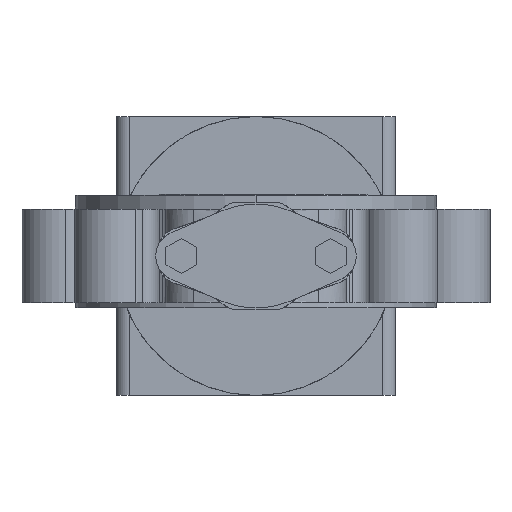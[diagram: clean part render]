
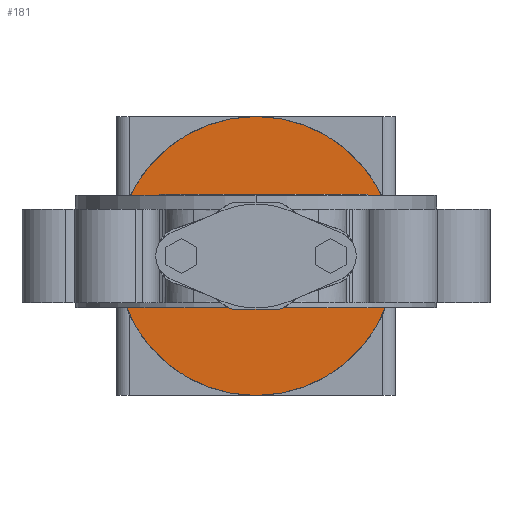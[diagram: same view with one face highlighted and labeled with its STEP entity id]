
A CAD part, front view. The second image highlights one B-rep face of the part: STEP entity #181.
In plain terms, the highlighted planar face has unit normal (0, -1, 0).
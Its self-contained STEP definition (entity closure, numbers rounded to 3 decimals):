
#181 = ADVANCED_FACE( '', ( #622, #623 ), #624, .T. );
#622 = FACE_OUTER_BOUND( '', #1319, .T. );
#623 = FACE_BOUND( '', #1320, .T. );
#624 = PLANE( '', #1321 );
#1319 = EDGE_LOOP( '', ( #2598, #2599 ) );
#1320 = EDGE_LOOP( '', ( #2600, #2601, #2602, #2603 ) );
#1321 = AXIS2_PLACEMENT_3D( '', #2604, #2605, #2606 );
#2598 = ORIENTED_EDGE( '', *, *, #4642, .F. );
#2599 = ORIENTED_EDGE( '', *, *, #4814, .F. );
#2600 = ORIENTED_EDGE( '', *, *, #4815, .T. );
#2601 = ORIENTED_EDGE( '', *, *, #4816, .T. );
#2602 = ORIENTED_EDGE( '', *, *, #4817, .T. );
#2603 = ORIENTED_EDGE( '', *, *, #4818, .T. );
#2604 = CARTESIAN_POINT( '', ( 65.5, 250., 0. ) );
#2605 = DIRECTION( '', ( 0., -1., 0. ) );
#2606 = DIRECTION( '', ( -1., 0., 0. ) );
#4642 = EDGE_CURVE( '', #5674, #5677, #5678, .T. );
#4814 = EDGE_CURVE( '', #5677, #5674, #5956, .T. );
#4815 = EDGE_CURVE( '', #5957, #5958, #5959, .T. );
#4816 = EDGE_CURVE( '', #5958, #5960, #5961, .T. );
#4817 = EDGE_CURVE( '', #5960, #5962, #5963, .T. );
#4818 = EDGE_CURVE( '', #5962, #5957, #5964, .T. );
#5674 = VERTEX_POINT( '', #7533 );
#5677 = VERTEX_POINT( '', #7537 );
#5678 = CIRCLE( '', #7538, 110. );
#5956 = CIRCLE( '', #8123, 110. );
#5957 = VERTEX_POINT( '', #8124 );
#5958 = VERTEX_POINT( '', #8125 );
#5959 = LINE( '', #8126, #8127 );
#5960 = VERTEX_POINT( '', #8128 );
#5961 = LINE( '', #8129, #8130 );
#5962 = VERTEX_POINT( '', #8131 );
#5963 = LINE( '', #8132, #8133 );
#5964 = LINE( '', #8134, #8135 );
#7533 = CARTESIAN_POINT( '', ( 110., 250., 0. ) );
#7537 = CARTESIAN_POINT( '', ( -110., 250., 0. ) );
#7538 = AXIS2_PLACEMENT_3D( '', #9847, #9848, #9849 );
#8123 = AXIS2_PLACEMENT_3D( '', #10182, #10183, #10184 );
#8124 = CARTESIAN_POINT( '', ( 52., 250., 37. ) );
#8125 = CARTESIAN_POINT( '', ( 52., 250., -37. ) );
#8126 = CARTESIAN_POINT( '', ( 52., 250., 37. ) );
#8127 = VECTOR( '', #10185, 1. );
#8128 = CARTESIAN_POINT( '', ( -52., 250., -37. ) );
#8129 = CARTESIAN_POINT( '', ( 52., 250., -37. ) );
#8130 = VECTOR( '', #10186, 1. );
#8131 = CARTESIAN_POINT( '', ( -52., 250., 37. ) );
#8132 = CARTESIAN_POINT( '', ( -52., 250., -37. ) );
#8133 = VECTOR( '', #10187, 1. );
#8134 = CARTESIAN_POINT( '', ( -52., 250., 37. ) );
#8135 = VECTOR( '', #10188, 1. );
#9847 = CARTESIAN_POINT( '', ( 0., 250., 0. ) );
#9848 = DIRECTION( '', ( 0., 1., 0. ) );
#9849 = DIRECTION( '', ( 1., 0., 0. ) );
#10182 = CARTESIAN_POINT( '', ( 0., 250., 0. ) );
#10183 = DIRECTION( '', ( 0., 1., 0. ) );
#10184 = DIRECTION( '', ( 1., 0., 0. ) );
#10185 = DIRECTION( '', ( 0., 0., -1. ) );
#10186 = DIRECTION( '', ( -1., 0., 0. ) );
#10187 = DIRECTION( '', ( 0., 0., 1. ) );
#10188 = DIRECTION( '', ( 1., 0., 0. ) );
